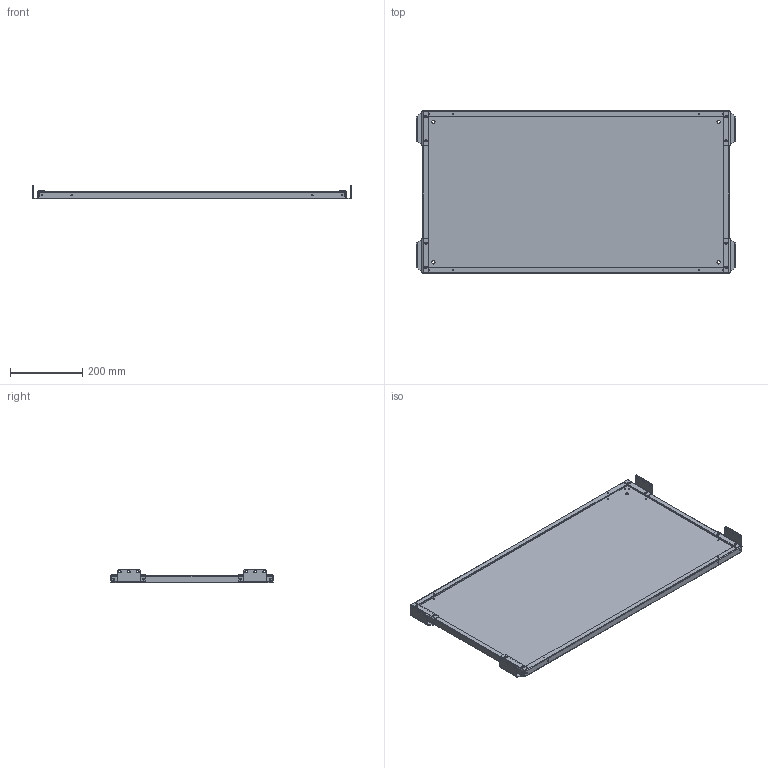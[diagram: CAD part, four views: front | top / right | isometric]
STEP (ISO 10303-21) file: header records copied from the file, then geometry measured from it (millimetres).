
FILE_DESCRIPTION (( 'STEP AP203' ), '1' );
FILE_NAME ('MP 85.45 M Ïàíåëü ìîíòàæíàÿ ñåêöèîííàÿ.STEP', '2013-01-09T13:37:44', ( 'System' ), ( '' ), 'SwSTEP 2.0', 'SolidWorks 2012', '' );
FILE_SCHEMA (( 'CONFIG_CONTROL_DESIGN' ));
Length unit declared in the file: millimetre
Products named in the file (1): MP 85.45 M Ïàíåëü ìîíòàæíàÿ ñåêöèîííàÿ
Bounding box: 885 x 450 x 37.75 mm (x, y, z)
Volume: 971015.1 mm3; surface area: 981117.5 mm2
Topology: 5 solids, 5 shells, 388 faces, 1016 edges, 632 vertices
Faces by surface type: cylinder 196, plane 168, bspline 16, sphere 8
Entity records: 12713 total; most frequent: CARTESIAN_POINT 2749, DIRECTION 2050, ORIENTED_EDGE 2016, EDGE_CURVE 1008, AXIS2_PLACEMENT_3D 733, VERTEX_POINT 632, VECTOR 584, LINE 584
